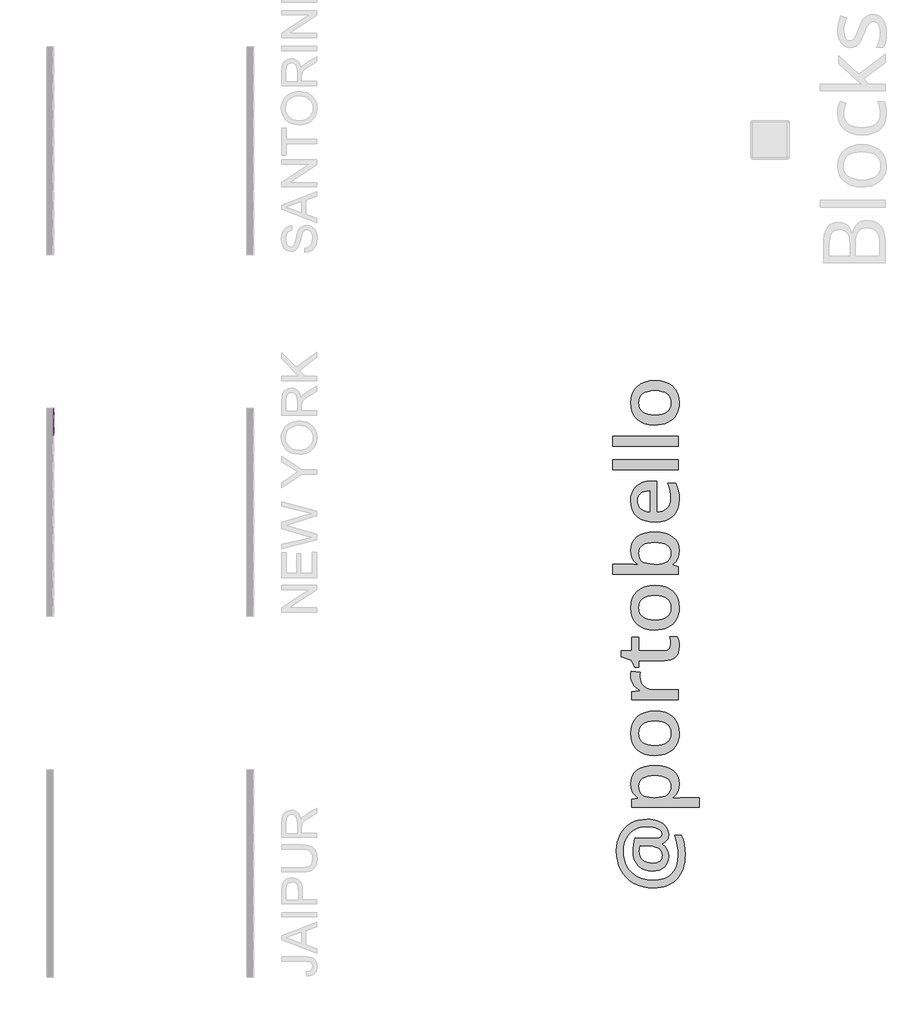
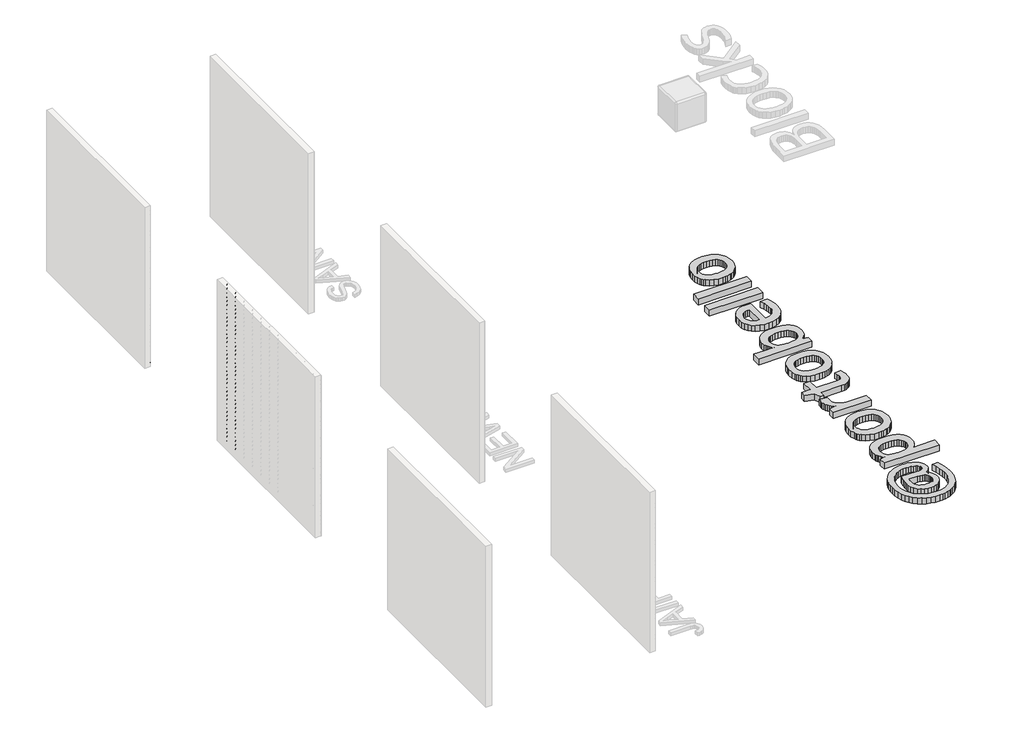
# One storey, part 24 of 45: 82 proxies.
"""IFC4 building model written with IfcOpenShell, lengths in millimetres."""

from ifc_helpers import new_model, si_unit, origin, origin_with_axes, place, context, project, spatial, polyline, outline, extrude, transform, mapped, element, save
from components import generic_models_acd2f2bb, generic_models_ab0f2c30, generic_models_bd1edc01

model = new_model("IFC4")

# Units and contexts
model_context = context("Model", 3, world=origin())
ifc_project = project(units=[si_unit("LENGTHUNIT", "METRE", prefix="MILLI")], contexts=[model_context])

# Site, building, storey
site = spatial("IfcSite", under=ifc_project)
building = spatial("IfcBuilding", under=site)
storey = spatial("IfcBuildingStorey", under=building, Name="PORTOBELLO - SHOWROOM", Elevation=0.0)

# Proxies
placement = place(None, origin())
generic_models_shape = generic_models_acd2f2bb(model_context)
element("IfcBuildingElementProxy", 1, Name="PBSHOP - HORIZONTES NEW YORK 6,5X23 : NEW YORK DECO", ObjectType="PBSHOP - HORIZONTES NEW YORK 6,5X23 : NEW YORK DECO", at=placement, inside=storey, context=model_context, shape_type="MappedRepresentation", body=[
    mapped(generic_models_shape, transform((66511.8826867, 8138.0036359, 34.5), x_axis=(0.0, 0.0, 1.0), y_axis=(0.0, -1.0, 0.0), z_axis=(1.0, 0.0, 0.0))),
])
element("IfcBuildingElementProxy", 2, Name="PBSHOP - HORIZONTES NEW YORK 6,5X23 : NEW YORK DECO", ObjectType="PBSHOP - HORIZONTES NEW YORK 6,5X23 : NEW YORK DECO", at=placement, inside=storey, context=model_context, shape_type="MappedRepresentation", body=[
    mapped(generic_models_shape, transform((66511.8826867, 8138.0036359, 103.5), x_axis=(0.0, 0.0, 1.0), y_axis=(0.0, -1.0, 0.0), z_axis=(1.0, 0.0, 0.0))),
])
element("IfcBuildingElementProxy", 3, Name="PBSHOP - HORIZONTES NEW YORK 6,5X23 : NEW YORK DECO", ObjectType="PBSHOP - HORIZONTES NEW YORK 6,5X23 : NEW YORK DECO", at=placement, inside=storey, context=model_context, shape_type="MappedRepresentation", body=[
    mapped(generic_models_shape, transform((66511.8826867, 8138.0036359, 172.5), x_axis=(0.0, 0.0, 1.0), y_axis=(0.0, -1.0, 0.0), z_axis=(1.0, 0.0, 0.0))),
])
element("IfcBuildingElementProxy", 4, Name="PBSHOP - HORIZONTES NEW YORK 6,5X23 : NEW YORK DECO", ObjectType="PBSHOP - HORIZONTES NEW YORK 6,5X23 : NEW YORK DECO", at=placement, inside=storey, context=model_context, shape_type="MappedRepresentation", body=[
    mapped(generic_models_shape, transform((66511.8826867, 8138.0036359, 241.5), x_axis=(0.0, 0.0, 1.0), y_axis=(0.0, -1.0, 0.0), z_axis=(1.0, 0.0, 0.0))),
])
element("IfcBuildingElementProxy", 5, Name="PBSHOP - HORIZONTES NEW YORK 6,5X23 : NEW YORK DECO", ObjectType="PBSHOP - HORIZONTES NEW YORK 6,5X23 : NEW YORK DECO", at=placement, inside=storey, context=model_context, shape_type="MappedRepresentation", body=[
    mapped(generic_models_shape, transform((66511.8826867, 8138.0036359, 310.5), x_axis=(0.0, 0.0, 1.0), y_axis=(0.0, -1.0, 0.0), z_axis=(1.0, 0.0, 0.0))),
])
element("IfcBuildingElementProxy", 6, Name="PBSHOP - HORIZONTES NEW YORK 6,5X23 : NEW YORK DECO", ObjectType="PBSHOP - HORIZONTES NEW YORK 6,5X23 : NEW YORK DECO", at=placement, inside=storey, context=model_context, shape_type="MappedRepresentation", body=[
    mapped(generic_models_shape, transform((66511.8826867, 8138.0036359, 379.5), x_axis=(0.0, 0.0, 1.0), y_axis=(0.0, -1.0, 0.0), z_axis=(1.0, 0.0, 0.0))),
])
element("IfcBuildingElementProxy", 7, Name="PBSHOP - HORIZONTES NEW YORK 6,5X23 : NEW YORK DECO", ObjectType="PBSHOP - HORIZONTES NEW YORK 6,5X23 : NEW YORK DECO", at=placement, inside=storey, context=model_context, shape_type="MappedRepresentation", body=[
    mapped(generic_models_shape, transform((66511.8826867, 8138.0036359, 448.5), x_axis=(0.0, 0.0, 1.0), y_axis=(0.0, -1.0, 0.0), z_axis=(1.0, 0.0, 0.0))),
])
element("IfcBuildingElementProxy", 8, Name="PBSHOP - HORIZONTES NEW YORK 6,5X23 : NEW YORK DECO", ObjectType="PBSHOP - HORIZONTES NEW YORK 6,5X23 : NEW YORK DECO", at=placement, inside=storey, context=model_context, shape_type="MappedRepresentation", body=[
    mapped(generic_models_shape, transform((66511.8826867, 8138.0036359, 517.5), x_axis=(0.0, 0.0, 1.0), y_axis=(0.0, -1.0, 0.0), z_axis=(1.0, 0.0, 0.0))),
])
element("IfcBuildingElementProxy", 9, Name="PBSHOP - HORIZONTES NEW YORK 6,5X23 : NEW YORK DECO", ObjectType="PBSHOP - HORIZONTES NEW YORK 6,5X23 : NEW YORK DECO", at=placement, inside=storey, context=model_context, shape_type="MappedRepresentation", body=[
    mapped(generic_models_shape, transform((66511.8826867, 8138.0036359, 586.5), x_axis=(0.0, 0.0, 1.0), y_axis=(0.0, -1.0, 0.0), z_axis=(1.0, 0.0, 0.0))),
])
element("IfcBuildingElementProxy", 10, Name="PBSHOP - HORIZONTES NEW YORK 6,5X23 : NEW YORK DECO", ObjectType="PBSHOP - HORIZONTES NEW YORK 6,5X23 : NEW YORK DECO", at=placement, inside=storey, context=model_context, shape_type="MappedRepresentation", body=[
    mapped(generic_models_shape, transform((66511.8826867, 8138.0036359, 655.5), x_axis=(0.0, 0.0, 1.0), y_axis=(0.0, -1.0, 0.0), z_axis=(1.0, 0.0, 0.0))),
])
element("IfcBuildingElementProxy", 11, Name="PBSHOP - HORIZONTES NEW YORK 6,5X23 : NEW YORK DECO", ObjectType="PBSHOP - HORIZONTES NEW YORK 6,5X23 : NEW YORK DECO", at=placement, inside=storey, context=model_context, shape_type="MappedRepresentation", body=[
    mapped(generic_models_shape, transform((66511.8826867, 8138.0036359, 724.5), x_axis=(0.0, 0.0, 1.0), y_axis=(0.0, -1.0, 0.0), z_axis=(1.0, 0.0, 0.0))),
])
element("IfcBuildingElementProxy", 12, Name="PBSHOP - HORIZONTES NEW YORK 6,5X23 : NEW YORK DECO", ObjectType="PBSHOP - HORIZONTES NEW YORK 6,5X23 : NEW YORK DECO", at=placement, inside=storey, context=model_context, shape_type="MappedRepresentation", body=[
    mapped(generic_models_shape, transform((66511.8826867, 8138.0036359, 793.5), x_axis=(0.0, 0.0, 1.0), y_axis=(0.0, -1.0, 0.0), z_axis=(1.0, 0.0, 0.0))),
])
element("IfcBuildingElementProxy", 13, Name="PBSHOP - HORIZONTES NEW YORK 6,5X23 : NEW YORK DECO", ObjectType="PBSHOP - HORIZONTES NEW YORK 6,5X23 : NEW YORK DECO", at=placement, inside=storey, context=model_context, shape_type="MappedRepresentation", body=[
    mapped(generic_models_shape, transform((66511.8826867, 8138.0036359, 862.5), x_axis=(0.0, 0.0, 1.0), y_axis=(0.0, -1.0, 0.0), z_axis=(1.0, 0.0, 0.0))),
])
element("IfcBuildingElementProxy", 14, Name="PBSHOP - HORIZONTES NEW YORK 6,5X23 : NEW YORK DECO", ObjectType="PBSHOP - HORIZONTES NEW YORK 6,5X23 : NEW YORK DECO", at=placement, inside=storey, context=model_context, shape_type="MappedRepresentation", body=[
    mapped(generic_models_shape, transform((66511.8826867, 8138.0036359, 931.5), x_axis=(0.0, 0.0, 1.0), y_axis=(0.0, -1.0, 0.0), z_axis=(1.0, 0.0, 0.0))),
])
element("IfcBuildingElementProxy", 15, Name="PBSHOP - HORIZONTES NEW YORK 6,5X23 : NEW YORK DECO", ObjectType="PBSHOP - HORIZONTES NEW YORK 6,5X23 : NEW YORK DECO", at=placement, inside=storey, context=model_context, shape_type="MappedRepresentation", body=[
    mapped(generic_models_shape, transform((66511.8826867, 8138.0036359, 1000.5), x_axis=(0.0, 0.0, 1.0), y_axis=(0.0, -1.0, 0.0), z_axis=(1.0, 0.0, 0.0))),
])
element("IfcBuildingElementProxy", 16, Name="PBSHOP - HORIZONTES NEW YORK 6,5X23 : NEW YORK DECO", ObjectType="PBSHOP - HORIZONTES NEW YORK 6,5X23 : NEW YORK DECO", at=placement, inside=storey, context=model_context, shape_type="MappedRepresentation", body=[
    mapped(generic_models_shape, transform((66511.8826867, 8138.0036359, 1069.5), x_axis=(0.0, 0.0, 1.0), y_axis=(0.0, -1.0, 0.0), z_axis=(1.0, 0.0, 0.0))),
])
element("IfcBuildingElementProxy", 17, Name="PBSHOP - HORIZONTES NEW YORK 6,5X23 : NEW YORK DECO", ObjectType="PBSHOP - HORIZONTES NEW YORK 6,5X23 : NEW YORK DECO", at=placement, inside=storey, context=model_context, shape_type="MappedRepresentation", body=[
    mapped(generic_models_shape, transform((66511.8826867, 8138.0036359, 1138.5), x_axis=(0.0, 0.0, 1.0), y_axis=(0.0, -1.0, 0.0), z_axis=(1.0, 0.0, 0.0))),
])
element("IfcBuildingElementProxy", 18, Name="PBSHOP - HORIZONTES NEW YORK 6,5X23 : NEW YORK DECO", ObjectType="PBSHOP - HORIZONTES NEW YORK 6,5X23 : NEW YORK DECO", at=placement, inside=storey, context=model_context, shape_type="MappedRepresentation", body=[
    mapped(generic_models_shape, transform((66511.8826867, 8138.0036359, 1207.5), x_axis=(0.0, 0.0, 1.0), y_axis=(0.0, -1.0, 0.0), z_axis=(1.0, 0.0, 0.0))),
])
element("IfcBuildingElementProxy", 19, Name="PBSHOP - HORIZONTES NEW YORK 6,5X23 : NEW YORK DECO", ObjectType="PBSHOP - HORIZONTES NEW YORK 6,5X23 : NEW YORK DECO", at=placement, inside=storey, context=model_context, shape_type="MappedRepresentation", body=[
    mapped(generic_models_shape, transform((66511.8826867, 8138.0036359, 1276.5), x_axis=(0.0, 0.0, 1.0), y_axis=(0.0, -1.0, 0.0), z_axis=(1.0, 0.0, 0.0))),
])
element("IfcBuildingElementProxy", 20, Name="PBSHOP - HORIZONTES NEW YORK 6,5X23 : NEW YORK DECO", ObjectType="PBSHOP - HORIZONTES NEW YORK 6,5X23 : NEW YORK DECO", at=placement, inside=storey, context=model_context, shape_type="MappedRepresentation", body=[
    mapped(generic_models_shape, transform((66511.8826867, 8138.0036359, 1345.5), x_axis=(0.0, 0.0, 1.0), y_axis=(0.0, -1.0, 0.0), z_axis=(1.0, 0.0, 0.0))),
])
element("IfcBuildingElementProxy", 21, Name="PBSHOP - HORIZONTES NEW YORK 6,5X23 : NEW YORK DECO", ObjectType="PBSHOP - HORIZONTES NEW YORK 6,5X23 : NEW YORK DECO", at=placement, inside=storey, context=model_context, shape_type="MappedRepresentation", body=[
    mapped(generic_models_shape, transform((66511.8826867, 8138.0036359, 1414.5), x_axis=(0.0, 0.0, 1.0), y_axis=(0.0, -1.0, 0.0), z_axis=(1.0, 0.0, 0.0))),
])
element("IfcBuildingElementProxy", 22, Name="PBSHOP - HORIZONTES NEW YORK 6,5X23 : NEW YORK DECO", ObjectType="PBSHOP - HORIZONTES NEW YORK 6,5X23 : NEW YORK DECO", at=placement, inside=storey, context=model_context, shape_type="MappedRepresentation", body=[
    mapped(generic_models_shape, transform((66511.8826867, 8138.0036359, 1483.5), x_axis=(0.0, 0.0, 1.0), y_axis=(0.0, -1.0, 0.0), z_axis=(1.0, 0.0, 0.0))),
])
element("IfcBuildingElementProxy", 23, Name="PBSHOP - HORIZONTES NEW YORK 6,5X23 : NEW YORK DECO", ObjectType="PBSHOP - HORIZONTES NEW YORK 6,5X23 : NEW YORK DECO", at=placement, inside=storey, context=model_context, shape_type="MappedRepresentation", body=[
    mapped(generic_models_shape, transform((66511.8826867, 8138.0036359, 1552.5), x_axis=(0.0, 0.0, 1.0), y_axis=(0.0, -1.0, 0.0), z_axis=(1.0, 0.0, 0.0))),
])
element("IfcBuildingElementProxy", 24, Name="PBSHOP - HORIZONTES NEW YORK 6,5X23 : NEW YORK DECO", ObjectType="PBSHOP - HORIZONTES NEW YORK 6,5X23 : NEW YORK DECO", at=placement, inside=storey, context=model_context, shape_type="MappedRepresentation", body=[
    mapped(generic_models_shape, transform((66511.8826867, 8138.0036359, 1621.5), x_axis=(0.0, 0.0, 1.0), y_axis=(0.0, -1.0, 0.0), z_axis=(1.0, 0.0, 0.0))),
])
element("IfcBuildingElementProxy", 25, Name="PBSHOP - HORIZONTES NEW YORK 6,5X23 : NEW YORK DECO", ObjectType="PBSHOP - HORIZONTES NEW YORK 6,5X23 : NEW YORK DECO", at=placement, inside=storey, context=model_context, shape_type="MappedRepresentation", body=[
    mapped(generic_models_shape, transform((66511.8826867, 8138.0036359, 1690.5), x_axis=(0.0, 0.0, 1.0), y_axis=(0.0, -1.0, 0.0), z_axis=(1.0, 0.0, 0.0))),
])
element("IfcBuildingElementProxy", 26, Name="PBSHOP - HORIZONTES NEW YORK 6,5X23 : NEW YORK DECO", ObjectType="PBSHOP - HORIZONTES NEW YORK 6,5X23 : NEW YORK DECO", at=placement, inside=storey, context=model_context, shape_type="MappedRepresentation", body=[
    mapped(generic_models_shape, transform((66511.8826867, 8138.0036359, 1759.5), x_axis=(0.0, 0.0, 1.0), y_axis=(0.0, -1.0, 0.0), z_axis=(1.0, 0.0, 0.0))),
])
element("IfcBuildingElementProxy", 27, Name="PBSHOP - HORIZONTES NEW YORK 6,5X23 : NEW YORK DECO", ObjectType="PBSHOP - HORIZONTES NEW YORK 6,5X23 : NEW YORK DECO", at=placement, inside=storey, context=model_context, shape_type="MappedRepresentation", body=[
    mapped(generic_models_shape, transform((66511.8826867, 8138.0036359, 1828.5), x_axis=(0.0, 0.0, 1.0), y_axis=(0.0, -1.0, 0.0), z_axis=(1.0, 0.0, 0.0))),
])
element("IfcBuildingElementProxy", 28, Name="PBSHOP - HORIZONTES NEW YORK 6,5X23 : NEW YORK DECO", ObjectType="PBSHOP - HORIZONTES NEW YORK 6,5X23 : NEW YORK DECO", at=placement, inside=storey, context=model_context, shape_type="MappedRepresentation", body=[
    mapped(generic_models_shape, transform((66511.8826867, 8138.0036359, 1897.5), x_axis=(0.0, 0.0, 1.0), y_axis=(0.0, -1.0, 0.0), z_axis=(1.0, 0.0, 0.0))),
])
element("IfcBuildingElementProxy", 29, Name="PBSHOP - HORIZONTES NEW YORK 6,5X23 : NEW YORK DECO", ObjectType="PBSHOP - HORIZONTES NEW YORK 6,5X23 : NEW YORK DECO", at=placement, inside=storey, context=model_context, shape_type="MappedRepresentation", body=[
    mapped(generic_models_shape, transform((66511.8826867, 8138.0036359, 1966.5), x_axis=(0.0, 0.0, 1.0), y_axis=(0.0, -1.0, 0.0), z_axis=(1.0, 0.0, 0.0))),
])
element("IfcBuildingElementProxy", 30, Name="PBSHOP - HORIZONTES NEW YORK 6,5X23 : NEW YORK DECO", ObjectType="PBSHOP - HORIZONTES NEW YORK 6,5X23 : NEW YORK DECO", at=placement, inside=storey, context=model_context, shape_type="MappedRepresentation", body=[
    mapped(generic_models_shape, transform((66511.8826867, 8138.0036359, 2035.5), x_axis=(0.0, 0.0, 1.0), y_axis=(0.0, -1.0, 0.0), z_axis=(1.0, 0.0, 0.0))),
])
element("IfcBuildingElementProxy", 31, Name="PBSHOP - HORIZONTES NEW YORK 6,5X23 : NEW YORK DECO", ObjectType="PBSHOP - HORIZONTES NEW YORK 6,5X23 : NEW YORK DECO", at=placement, inside=storey, context=model_context, shape_type="MappedRepresentation", body=[
    mapped(generic_models_shape, transform((66511.8826867, 8138.0036359, 2104.5), x_axis=(0.0, 0.0, 1.0), y_axis=(0.0, -1.0, 0.0), z_axis=(1.0, 0.0, 0.0))),
])
element("IfcBuildingElementProxy", 32, Name="PBSHOP - HORIZONTES NEW YORK 6,5X23 : NEW YORK DECO", ObjectType="PBSHOP - HORIZONTES NEW YORK 6,5X23 : NEW YORK DECO", at=placement, inside=storey, context=model_context, shape_type="MappedRepresentation", body=[
    mapped(generic_models_shape, transform((66511.8826867, 8138.0036359, 2173.5), x_axis=(0.0, 0.0, 1.0), y_axis=(0.0, -1.0, 0.0), z_axis=(1.0, 0.0, 0.0))),
])
element("IfcBuildingElementProxy", 33, Name="PBSHOP - HORIZONTES NEW YORK 6,5X23 : NEW YORK DECO", ObjectType="PBSHOP - HORIZONTES NEW YORK 6,5X23 : NEW YORK DECO", at=placement, inside=storey, context=model_context, shape_type="MappedRepresentation", body=[
    mapped(generic_models_shape, transform((66511.8826867, 8138.0036359, 2242.5), x_axis=(0.0, 0.0, 1.0), y_axis=(0.0, -1.0, 0.0), z_axis=(1.0, 0.0, 0.0))),
])
element("IfcBuildingElementProxy", 34, Name="PBSHOP - HORIZONTES NEW YORK 6,5X23 : NEW YORK DECO", ObjectType="PBSHOP - HORIZONTES NEW YORK 6,5X23 : NEW YORK DECO", at=placement, inside=storey, context=model_context, shape_type="MappedRepresentation", body=[
    mapped(generic_models_shape, transform((66511.8826867, 8138.0036359, 2311.5), x_axis=(0.0, 0.0, 1.0), y_axis=(0.0, -1.0, 0.0), z_axis=(1.0, 0.0, 0.0))),
])
element("IfcBuildingElementProxy", 35, Name="PBSHOP - HORIZONTES NEW YORK 6,5X23 : NEW YORK DECO", ObjectType="PBSHOP - HORIZONTES NEW YORK 6,5X23 : NEW YORK DECO", at=placement, inside=storey, context=model_context, shape_type="MappedRepresentation", body=[
    mapped(generic_models_shape, transform((66511.8826867, 8138.0036359, 2380.5), x_axis=(0.0, 0.0, 1.0), y_axis=(0.0, -1.0, 0.0), z_axis=(1.0, 0.0, 0.0))),
])
element("IfcBuildingElementProxy", 36, Name="PBSHOP - HORIZONTES NEW YORK 6,5X23 : NEW YORK DECO", ObjectType="PBSHOP - HORIZONTES NEW YORK 6,5X23 : NEW YORK DECO", at=placement, inside=storey, context=model_context, shape_type="MappedRepresentation", body=[
    mapped(generic_models_shape, transform((66511.8826867, 8138.0036359, 2449.5), x_axis=(0.0, 0.0, 1.0), y_axis=(0.0, -1.0, 0.0), z_axis=(1.0, 0.0, 0.0))),
])
element("IfcBuildingElementProxy", 37, Name="PBSHOP - HORIZONTES NEW YORK 6,5X23 : NEW YORK DECO", ObjectType="PBSHOP - HORIZONTES NEW YORK 6,5X23 : NEW YORK DECO", at=placement, inside=storey, context=model_context, shape_type="MappedRepresentation", body=[
    mapped(generic_models_shape, transform((66511.8826867, 8138.0036359, 2518.5), x_axis=(0.0, 0.0, 1.0), y_axis=(0.0, -1.0, 0.0), z_axis=(1.0, 0.0, 0.0))),
])
element("IfcBuildingElementProxy", 38, Name="PBSHOP - HORIZONTES NEW YORK 6,5X23 : NEW YORK DECO", ObjectType="PBSHOP - HORIZONTES NEW YORK 6,5X23 : NEW YORK DECO", at=placement, inside=storey, context=model_context, shape_type="MappedRepresentation", body=[
    mapped(generic_models_shape, transform((66511.8826867, 8138.0036359, 2587.5), x_axis=(0.0, 0.0, 1.0), y_axis=(0.0, -1.0, 0.0), z_axis=(1.0, 0.0, 0.0))),
])
element("IfcBuildingElementProxy", 39, Name="PBSHOP - HORIZONTES NEW YORK 6,5X23 : NEW YORK DECO", ObjectType="PBSHOP - HORIZONTES NEW YORK 6,5X23 : NEW YORK DECO", at=placement, inside=storey, context=model_context, shape_type="MappedRepresentation", body=[
    mapped(generic_models_shape, transform((66511.8826867, 8138.0036359, 2656.5), x_axis=(0.0, 0.0, 1.0), y_axis=(0.0, -1.0, 0.0), z_axis=(1.0, 0.0, 0.0))),
])
generic_models_2_shape = generic_models_ab0f2c30(model_context)
element("IfcBuildingElementProxy", 40, Name="PBSHOP - HORIZONTES SANTORINI 6,5X23 : SANTORINI ROTAS", ObjectType="PBSHOP - HORIZONTES SANTORINI 6,5X23 : SANTORINI ROTAS", at=placement, inside=storey, context=model_context, shape_type="MappedRepresentation", body=[
    mapped(generic_models_2_shape, transform((66511.8826867, 10492.0312463, 34.5), x_axis=(0.0, 0.0, 1.0), y_axis=(0.0, -1.0, 0.0), z_axis=(1.0, 0.0, 0.0))),
])
element("IfcBuildingElementProxy", 41, Name="PBSHOP - HORIZONTES SANTORINI 6,5X23 : SANTORINI ROTAS", ObjectType="PBSHOP - HORIZONTES SANTORINI 6,5X23 : SANTORINI ROTAS", at=placement, inside=storey, context=model_context, shape_type="MappedRepresentation", body=[
    mapped(generic_models_2_shape, transform((66511.8826867, 10726.0312463, 34.5), x_axis=(0.0, 0.0, 1.0), y_axis=(0.0, -1.0, 0.0), z_axis=(1.0, 0.0, 0.0))),
])
element("IfcBuildingElementProxy", 42, Name="PBSHOP - HORIZONTES SANTORINI 6,5X23 : SANTORINI ROTAS", ObjectType="PBSHOP - HORIZONTES SANTORINI 6,5X23 : SANTORINI ROTAS", at=placement, inside=storey, context=model_context, shape_type="MappedRepresentation", body=[
    mapped(generic_models_2_shape, transform((66511.8826867, 10960.0312463, 34.5), x_axis=(0.0, 0.0, 1.0), y_axis=(0.0, -1.0, 0.0), z_axis=(1.0, 0.0, 0.0))),
])
generic_models_3_shape = generic_models_bd1edc01(model_context)
element("IfcBuildingElementProxy", 43, Name="PBSHOP - HORIZONTES NEW YORK 6,5X23 : NEW YORK DECO", ObjectType="PBSHOP - HORIZONTES NEW YORK 6,5X23 : NEW YORK DECO", at=placement, inside=storey, context=model_context, shape_type="MappedRepresentation", body=[
    mapped(generic_models_3_shape, transform((66511.8826867, 8372.0036359, 34.5), x_axis=(0.0, 0.0, 1.0), y_axis=(0.0, -1.0, 0.0), z_axis=(1.0, 0.0, 0.0))),
])
element("IfcBuildingElementProxy", 44, Name="PBSHOP - HORIZONTES NEW YORK 6,5X23 : NEW YORK DECO", ObjectType="PBSHOP - HORIZONTES NEW YORK 6,5X23 : NEW YORK DECO", at=placement, inside=storey, context=model_context, shape_type="MappedRepresentation", body=[
    mapped(generic_models_3_shape, transform((66511.8826867, 8372.0036359, 103.5), x_axis=(0.0, 0.0, 1.0), y_axis=(0.0, -1.0, 0.0), z_axis=(1.0, 0.0, 0.0))),
])
element("IfcBuildingElementProxy", 45, Name="PBSHOP - HORIZONTES NEW YORK 6,5X23 : NEW YORK DECO", ObjectType="PBSHOP - HORIZONTES NEW YORK 6,5X23 : NEW YORK DECO", at=placement, inside=storey, context=model_context, shape_type="MappedRepresentation", body=[
    mapped(generic_models_3_shape, transform((66511.8826867, 8372.0036359, 172.5), x_axis=(0.0, 0.0, 1.0), y_axis=(0.0, -1.0, 0.0), z_axis=(1.0, 0.0, 0.0))),
])
element("IfcBuildingElementProxy", 46, Name="PBSHOP - HORIZONTES NEW YORK 6,5X23 : NEW YORK DECO", ObjectType="PBSHOP - HORIZONTES NEW YORK 6,5X23 : NEW YORK DECO", at=placement, inside=storey, context=model_context, shape_type="MappedRepresentation", body=[
    mapped(generic_models_3_shape, transform((66511.8826867, 8372.0036359, 241.5), x_axis=(0.0, 0.0, 1.0), y_axis=(0.0, -1.0, 0.0), z_axis=(1.0, 0.0, 0.0))),
])
element("IfcBuildingElementProxy", 47, Name="PBSHOP - HORIZONTES NEW YORK 6,5X23 : NEW YORK DECO", ObjectType="PBSHOP - HORIZONTES NEW YORK 6,5X23 : NEW YORK DECO", at=placement, inside=storey, context=model_context, shape_type="MappedRepresentation", body=[
    mapped(generic_models_3_shape, transform((66511.8826867, 8372.0036359, 310.5), x_axis=(0.0, 0.0, 1.0), y_axis=(0.0, -1.0, 0.0), z_axis=(1.0, 0.0, 0.0))),
])
element("IfcBuildingElementProxy", 48, Name="PBSHOP - HORIZONTES NEW YORK 6,5X23 : NEW YORK DECO", ObjectType="PBSHOP - HORIZONTES NEW YORK 6,5X23 : NEW YORK DECO", at=placement, inside=storey, context=model_context, shape_type="MappedRepresentation", body=[
    mapped(generic_models_3_shape, transform((66511.8826867, 8372.0036359, 379.5), x_axis=(0.0, 0.0, 1.0), y_axis=(0.0, -1.0, 0.0), z_axis=(1.0, 0.0, 0.0))),
])
element("IfcBuildingElementProxy", 49, Name="PBSHOP - HORIZONTES NEW YORK 6,5X23 : NEW YORK DECO", ObjectType="PBSHOP - HORIZONTES NEW YORK 6,5X23 : NEW YORK DECO", at=placement, inside=storey, context=model_context, shape_type="MappedRepresentation", body=[
    mapped(generic_models_3_shape, transform((66511.8826867, 8372.0036359, 448.5), x_axis=(0.0, 0.0, 1.0), y_axis=(0.0, -1.0, 0.0), z_axis=(1.0, 0.0, 0.0))),
])
element("IfcBuildingElementProxy", 50, Name="PBSHOP - HORIZONTES NEW YORK 6,5X23 : NEW YORK DECO", ObjectType="PBSHOP - HORIZONTES NEW YORK 6,5X23 : NEW YORK DECO", at=placement, inside=storey, context=model_context, shape_type="MappedRepresentation", body=[
    mapped(generic_models_3_shape, transform((66511.8826867, 8372.0036359, 517.5), x_axis=(0.0, 0.0, 1.0), y_axis=(0.0, -1.0, 0.0), z_axis=(1.0, 0.0, 0.0))),
])
element("IfcBuildingElementProxy", 51, Name="PBSHOP - HORIZONTES NEW YORK 6,5X23 : NEW YORK DECO", ObjectType="PBSHOP - HORIZONTES NEW YORK 6,5X23 : NEW YORK DECO", at=placement, inside=storey, context=model_context, shape_type="MappedRepresentation", body=[
    mapped(generic_models_3_shape, transform((66511.8826867, 8372.0036359, 586.5), x_axis=(0.0, 0.0, 1.0), y_axis=(0.0, -1.0, 0.0), z_axis=(1.0, 0.0, 0.0))),
])
element("IfcBuildingElementProxy", 52, Name="PBSHOP - HORIZONTES NEW YORK 6,5X23 : NEW YORK DECO", ObjectType="PBSHOP - HORIZONTES NEW YORK 6,5X23 : NEW YORK DECO", at=placement, inside=storey, context=model_context, shape_type="MappedRepresentation", body=[
    mapped(generic_models_3_shape, transform((66511.8826867, 8372.0036359, 655.5), x_axis=(0.0, 0.0, 1.0), y_axis=(0.0, -1.0, 0.0), z_axis=(1.0, 0.0, 0.0))),
])
element("IfcBuildingElementProxy", 53, Name="PBSHOP - HORIZONTES NEW YORK 6,5X23 : NEW YORK DECO", ObjectType="PBSHOP - HORIZONTES NEW YORK 6,5X23 : NEW YORK DECO", at=placement, inside=storey, context=model_context, shape_type="MappedRepresentation", body=[
    mapped(generic_models_3_shape, transform((66511.8826867, 8372.0036359, 724.5), x_axis=(0.0, 0.0, 1.0), y_axis=(0.0, -1.0, 0.0), z_axis=(1.0, 0.0, 0.0))),
])
element("IfcBuildingElementProxy", 54, Name="PBSHOP - HORIZONTES NEW YORK 6,5X23 : NEW YORK DECO", ObjectType="PBSHOP - HORIZONTES NEW YORK 6,5X23 : NEW YORK DECO", at=placement, inside=storey, context=model_context, shape_type="MappedRepresentation", body=[
    mapped(generic_models_3_shape, transform((66511.8826867, 8372.0036359, 793.5), x_axis=(0.0, 0.0, 1.0), y_axis=(0.0, -1.0, 0.0), z_axis=(1.0, 0.0, 0.0))),
])
element("IfcBuildingElementProxy", 55, Name="PBSHOP - HORIZONTES NEW YORK 6,5X23 : NEW YORK DECO", ObjectType="PBSHOP - HORIZONTES NEW YORK 6,5X23 : NEW YORK DECO", at=placement, inside=storey, context=model_context, shape_type="MappedRepresentation", body=[
    mapped(generic_models_3_shape, transform((66511.8826867, 8372.0036359, 862.5), x_axis=(0.0, 0.0, 1.0), y_axis=(0.0, -1.0, 0.0), z_axis=(1.0, 0.0, 0.0))),
])
element("IfcBuildingElementProxy", 56, Name="PBSHOP - HORIZONTES NEW YORK 6,5X23 : NEW YORK DECO", ObjectType="PBSHOP - HORIZONTES NEW YORK 6,5X23 : NEW YORK DECO", at=placement, inside=storey, context=model_context, shape_type="MappedRepresentation", body=[
    mapped(generic_models_3_shape, transform((66511.8826867, 8372.0036359, 931.5), x_axis=(0.0, 0.0, 1.0), y_axis=(0.0, -1.0, 0.0), z_axis=(1.0, 0.0, 0.0))),
])
element("IfcBuildingElementProxy", 57, Name="PBSHOP - HORIZONTES NEW YORK 6,5X23 : NEW YORK DECO", ObjectType="PBSHOP - HORIZONTES NEW YORK 6,5X23 : NEW YORK DECO", at=placement, inside=storey, context=model_context, shape_type="MappedRepresentation", body=[
    mapped(generic_models_3_shape, transform((66511.8826867, 8372.0036359, 1000.5), x_axis=(0.0, 0.0, 1.0), y_axis=(0.0, -1.0, 0.0), z_axis=(1.0, 0.0, 0.0))),
])
element("IfcBuildingElementProxy", 58, Name="PBSHOP - HORIZONTES NEW YORK 6,5X23 : NEW YORK DECO", ObjectType="PBSHOP - HORIZONTES NEW YORK 6,5X23 : NEW YORK DECO", at=placement, inside=storey, context=model_context, shape_type="MappedRepresentation", body=[
    mapped(generic_models_3_shape, transform((66511.8826867, 8372.0036359, 1069.5), x_axis=(0.0, 0.0, 1.0), y_axis=(0.0, -1.0, 0.0), z_axis=(1.0, 0.0, 0.0))),
])
element("IfcBuildingElementProxy", 59, Name="PBSHOP - HORIZONTES NEW YORK 6,5X23 : NEW YORK DECO", ObjectType="PBSHOP - HORIZONTES NEW YORK 6,5X23 : NEW YORK DECO", at=placement, inside=storey, context=model_context, shape_type="MappedRepresentation", body=[
    mapped(generic_models_3_shape, transform((66511.8826867, 8372.0036359, 1138.5), x_axis=(0.0, 0.0, 1.0), y_axis=(0.0, -1.0, 0.0), z_axis=(1.0, 0.0, 0.0))),
])
element("IfcBuildingElementProxy", 60, Name="PBSHOP - HORIZONTES NEW YORK 6,5X23 : NEW YORK DECO", ObjectType="PBSHOP - HORIZONTES NEW YORK 6,5X23 : NEW YORK DECO", at=placement, inside=storey, context=model_context, shape_type="MappedRepresentation", body=[
    mapped(generic_models_3_shape, transform((66511.8826867, 8372.0036359, 1207.5), x_axis=(0.0, 0.0, 1.0), y_axis=(0.0, -1.0, 0.0), z_axis=(1.0, 0.0, 0.0))),
])
element("IfcBuildingElementProxy", 61, Name="PBSHOP - HORIZONTES NEW YORK 6,5X23 : NEW YORK DECO", ObjectType="PBSHOP - HORIZONTES NEW YORK 6,5X23 : NEW YORK DECO", at=placement, inside=storey, context=model_context, shape_type="MappedRepresentation", body=[
    mapped(generic_models_3_shape, transform((66511.8826867, 8372.0036359, 1276.5), x_axis=(0.0, 0.0, 1.0), y_axis=(0.0, -1.0, 0.0), z_axis=(1.0, 0.0, 0.0))),
])
element("IfcBuildingElementProxy", 62, Name="PBSHOP - HORIZONTES NEW YORK 6,5X23 : NEW YORK DECO", ObjectType="PBSHOP - HORIZONTES NEW YORK 6,5X23 : NEW YORK DECO", at=placement, inside=storey, context=model_context, shape_type="MappedRepresentation", body=[
    mapped(generic_models_3_shape, transform((66511.8826867, 8372.0036359, 1345.5), x_axis=(0.0, 0.0, 1.0), y_axis=(0.0, -1.0, 0.0), z_axis=(1.0, 0.0, 0.0))),
])
element("IfcBuildingElementProxy", 63, Name="PBSHOP - HORIZONTES NEW YORK 6,5X23 : NEW YORK DECO", ObjectType="PBSHOP - HORIZONTES NEW YORK 6,5X23 : NEW YORK DECO", at=placement, inside=storey, context=model_context, shape_type="MappedRepresentation", body=[
    mapped(generic_models_3_shape, transform((66511.8826867, 8372.0036359, 1414.5), x_axis=(0.0, 0.0, 1.0), y_axis=(0.0, -1.0, 0.0), z_axis=(1.0, 0.0, 0.0))),
])
element("IfcBuildingElementProxy", 64, Name="PBSHOP - HORIZONTES NEW YORK 6,5X23 : NEW YORK DECO", ObjectType="PBSHOP - HORIZONTES NEW YORK 6,5X23 : NEW YORK DECO", at=placement, inside=storey, context=model_context, shape_type="MappedRepresentation", body=[
    mapped(generic_models_3_shape, transform((66511.8826867, 8372.0036359, 1483.5), x_axis=(0.0, 0.0, 1.0), y_axis=(0.0, -1.0, 0.0), z_axis=(1.0, 0.0, 0.0))),
])
element("IfcBuildingElementProxy", 65, Name="PBSHOP - HORIZONTES NEW YORK 6,5X23 : NEW YORK DECO", ObjectType="PBSHOP - HORIZONTES NEW YORK 6,5X23 : NEW YORK DECO", at=placement, inside=storey, context=model_context, shape_type="MappedRepresentation", body=[
    mapped(generic_models_3_shape, transform((66511.8826867, 8372.0036359, 1552.5), x_axis=(0.0, 0.0, 1.0), y_axis=(0.0, -1.0, 0.0), z_axis=(1.0, 0.0, 0.0))),
])
element("IfcBuildingElementProxy", 66, Name="PBSHOP - HORIZONTES NEW YORK 6,5X23 : NEW YORK DECO", ObjectType="PBSHOP - HORIZONTES NEW YORK 6,5X23 : NEW YORK DECO", at=placement, inside=storey, context=model_context, shape_type="MappedRepresentation", body=[
    mapped(generic_models_3_shape, transform((66511.8826867, 8372.0036359, 1621.5), x_axis=(0.0, 0.0, 1.0), y_axis=(0.0, -1.0, 0.0), z_axis=(1.0, 0.0, 0.0))),
])
element("IfcBuildingElementProxy", 67, Name="PBSHOP - HORIZONTES NEW YORK 6,5X23 : NEW YORK DECO", ObjectType="PBSHOP - HORIZONTES NEW YORK 6,5X23 : NEW YORK DECO", at=placement, inside=storey, context=model_context, shape_type="MappedRepresentation", body=[
    mapped(generic_models_3_shape, transform((66511.8826867, 8372.0036359, 1690.5), x_axis=(0.0, 0.0, 1.0), y_axis=(0.0, -1.0, 0.0), z_axis=(1.0, 0.0, 0.0))),
])
element("IfcBuildingElementProxy", 68, Name="PBSHOP - HORIZONTES NEW YORK 6,5X23 : NEW YORK DECO", ObjectType="PBSHOP - HORIZONTES NEW YORK 6,5X23 : NEW YORK DECO", at=placement, inside=storey, context=model_context, shape_type="MappedRepresentation", body=[
    mapped(generic_models_3_shape, transform((66511.8826867, 8372.0036359, 1759.5), x_axis=(0.0, 0.0, 1.0), y_axis=(0.0, -1.0, 0.0), z_axis=(1.0, 0.0, 0.0))),
])
element("IfcBuildingElementProxy", 69, Name="PBSHOP - HORIZONTES NEW YORK 6,5X23 : NEW YORK DECO", ObjectType="PBSHOP - HORIZONTES NEW YORK 6,5X23 : NEW YORK DECO", at=placement, inside=storey, context=model_context, shape_type="MappedRepresentation", body=[
    mapped(generic_models_3_shape, transform((66511.8826867, 8372.0036359, 1828.5), x_axis=(0.0, 0.0, 1.0), y_axis=(0.0, -1.0, 0.0), z_axis=(1.0, 0.0, 0.0))),
])
element("IfcBuildingElementProxy", 70, Name="PBSHOP - HORIZONTES NEW YORK 6,5X23 : NEW YORK DECO", ObjectType="PBSHOP - HORIZONTES NEW YORK 6,5X23 : NEW YORK DECO", at=placement, inside=storey, context=model_context, shape_type="MappedRepresentation", body=[
    mapped(generic_models_3_shape, transform((66511.8826867, 8372.0036359, 1897.5), x_axis=(0.0, 0.0, 1.0), y_axis=(0.0, -1.0, 0.0), z_axis=(1.0, 0.0, 0.0))),
])
element("IfcBuildingElementProxy", 71, Name="PBSHOP - HORIZONTES NEW YORK 6,5X23 : NEW YORK DECO", ObjectType="PBSHOP - HORIZONTES NEW YORK 6,5X23 : NEW YORK DECO", at=placement, inside=storey, context=model_context, shape_type="MappedRepresentation", body=[
    mapped(generic_models_3_shape, transform((66511.8826867, 8372.0036359, 1966.5), x_axis=(0.0, 0.0, 1.0), y_axis=(0.0, -1.0, 0.0), z_axis=(1.0, 0.0, 0.0))),
])
element("IfcBuildingElementProxy", 72, Name="PBSHOP - HORIZONTES NEW YORK 6,5X23 : NEW YORK DECO", ObjectType="PBSHOP - HORIZONTES NEW YORK 6,5X23 : NEW YORK DECO", at=placement, inside=storey, context=model_context, shape_type="MappedRepresentation", body=[
    mapped(generic_models_3_shape, transform((66511.8826867, 8372.0036359, 2035.5), x_axis=(0.0, 0.0, 1.0), y_axis=(0.0, -1.0, 0.0), z_axis=(1.0, 0.0, 0.0))),
])
element("IfcBuildingElementProxy", 73, Name="PBSHOP - HORIZONTES NEW YORK 6,5X23 : NEW YORK DECO", ObjectType="PBSHOP - HORIZONTES NEW YORK 6,5X23 : NEW YORK DECO", at=placement, inside=storey, context=model_context, shape_type="MappedRepresentation", body=[
    mapped(generic_models_3_shape, transform((66511.8826867, 8372.0036359, 2104.5), x_axis=(0.0, 0.0, 1.0), y_axis=(0.0, -1.0, 0.0), z_axis=(1.0, 0.0, 0.0))),
])
element("IfcBuildingElementProxy", 74, Name="PBSHOP - HORIZONTES NEW YORK 6,5X23 : NEW YORK DECO", ObjectType="PBSHOP - HORIZONTES NEW YORK 6,5X23 : NEW YORK DECO", at=placement, inside=storey, context=model_context, shape_type="MappedRepresentation", body=[
    mapped(generic_models_3_shape, transform((66511.8826867, 8372.0036359, 2173.5), x_axis=(0.0, 0.0, 1.0), y_axis=(0.0, -1.0, 0.0), z_axis=(1.0, 0.0, 0.0))),
])
element("IfcBuildingElementProxy", 75, Name="PBSHOP - HORIZONTES NEW YORK 6,5X23 : NEW YORK DECO", ObjectType="PBSHOP - HORIZONTES NEW YORK 6,5X23 : NEW YORK DECO", at=placement, inside=storey, context=model_context, shape_type="MappedRepresentation", body=[
    mapped(generic_models_3_shape, transform((66511.8826867, 8372.0036359, 2242.5), x_axis=(0.0, 0.0, 1.0), y_axis=(0.0, -1.0, 0.0), z_axis=(1.0, 0.0, 0.0))),
])
element("IfcBuildingElementProxy", 76, Name="PBSHOP - HORIZONTES NEW YORK 6,5X23 : NEW YORK DECO", ObjectType="PBSHOP - HORIZONTES NEW YORK 6,5X23 : NEW YORK DECO", at=placement, inside=storey, context=model_context, shape_type="MappedRepresentation", body=[
    mapped(generic_models_3_shape, transform((66511.8826867, 8372.0036359, 2311.5), x_axis=(0.0, 0.0, 1.0), y_axis=(0.0, -1.0, 0.0), z_axis=(1.0, 0.0, 0.0))),
])
element("IfcBuildingElementProxy", 77, Name="PBSHOP - HORIZONTES NEW YORK 6,5X23 : NEW YORK DECO", ObjectType="PBSHOP - HORIZONTES NEW YORK 6,5X23 : NEW YORK DECO", at=placement, inside=storey, context=model_context, shape_type="MappedRepresentation", body=[
    mapped(generic_models_3_shape, transform((66511.8826867, 8372.0036359, 2380.5), x_axis=(0.0, 0.0, 1.0), y_axis=(0.0, -1.0, 0.0), z_axis=(1.0, 0.0, 0.0))),
])
element("IfcBuildingElementProxy", 78, Name="PBSHOP - HORIZONTES NEW YORK 6,5X23 : NEW YORK DECO", ObjectType="PBSHOP - HORIZONTES NEW YORK 6,5X23 : NEW YORK DECO", at=placement, inside=storey, context=model_context, shape_type="MappedRepresentation", body=[
    mapped(generic_models_3_shape, transform((66511.8826867, 8372.0036359, 2449.5), x_axis=(0.0, 0.0, 1.0), y_axis=(0.0, -1.0, 0.0), z_axis=(1.0, 0.0, 0.0))),
])
element("IfcBuildingElementProxy", 79, Name="PBSHOP - HORIZONTES NEW YORK 6,5X23 : NEW YORK DECO", ObjectType="PBSHOP - HORIZONTES NEW YORK 6,5X23 : NEW YORK DECO", at=placement, inside=storey, context=model_context, shape_type="MappedRepresentation", body=[
    mapped(generic_models_3_shape, transform((66511.8826867, 8372.0036359, 2518.5), x_axis=(0.0, 0.0, 1.0), y_axis=(0.0, -1.0, 0.0), z_axis=(1.0, 0.0, 0.0))),
])
element("IfcBuildingElementProxy", 80, Name="PBSHOP - HORIZONTES NEW YORK 6,5X23 : NEW YORK DECO", ObjectType="PBSHOP - HORIZONTES NEW YORK 6,5X23 : NEW YORK DECO", at=placement, inside=storey, context=model_context, shape_type="MappedRepresentation", body=[
    mapped(generic_models_3_shape, transform((66511.8826867, 8372.0036359, 2587.5), x_axis=(0.0, 0.0, 1.0), y_axis=(0.0, -1.0, 0.0), z_axis=(1.0, 0.0, 0.0))),
])
element("IfcBuildingElementProxy", 81, Name="PBSHOP - HORIZONTES NEW YORK 6,5X23 : NEW YORK DECO", ObjectType="PBSHOP - HORIZONTES NEW YORK 6,5X23 : NEW YORK DECO", at=placement, inside=storey, context=model_context, shape_type="MappedRepresentation", body=[
    mapped(generic_models_3_shape, transform((66511.8826867, 8372.0036359, 2656.5), x_axis=(0.0, 0.0, 1.0), y_axis=(0.0, -1.0, 0.0), z_axis=(1.0, 0.0, 0.0))),
])
element("IfcBuildingElementProxy", 82, Name="80mm OpenSans Bold", ObjectType="80mm OpenSans Bold", at=placement, inside=storey, context=model_context, shape_type="SweptSolid", body=[
    extrude(outline(polyline([(74221.1680251, 3041.4958876), (74259.2736397, 3039.9485278), (74295.7117113, 3035.3064482), (74330.4822396, 3027.5696488), (74363.5852248, 3016.7381297), (74394.066712, 3003.0973262), (74420.9727462, 2986.9326736), (74444.3033276, 2968.2441718), (74464.058456, 2947.031821), (74479.7799328, 2923.6862167), (74491.009559, 2898.5979547), (74497.7473347, 2871.7670351), (74499.99326, 2843.1934576), (74494.2845537, 2802.5715053), (74487.1486708, 2784.4238284), (74477.1584347, 2767.7183509), (74464.734487, 2753.0409665), (74450.2974692, 2740.9775687), (74433.8473813, 2731.5281575), (74415.3842232, 2724.6927328), (74415.3842232, 2717.9624685), (74452.4006768, 2687.7964625), (74478.8410008, 2651.1405588), (74494.7051952, 2608.7759487), (74499.99326, 2561.4838237), (74496.4403415, 2518.8187555), (74485.7815858, 2480.9610188), (74468.0169932, 2447.9106138), (74443.1465634, 2419.6675405), (74412.2068774, 2397.0580588), (74376.2345162, 2380.9084291), (74335.2294796, 2371.2186513), (74289.1917677, 2367.9887254), (74236.0482188, 2372.2702551), (74188.1476659, 2385.1148443), (74145.4901091, 2406.522493), (74108.0755483, 2436.4932012), (74077.6316184, 2473.6749068), (74055.8859542, 2516.7155479), (74042.8385557, 2565.6151244), (74038.4894229, 2620.3736363), (74040.3222181, 2664.6912248), (74045.8206036, 2713.5156867), (74054.563938, 2761.7392322), (74066.1315798, 2804.2540714), (74317.3146578, 2791.9953757), (74330.0540866, 2791.9953757), (74367.9118233, 2795.6008744), (74394.9530637, 2806.4173706), (74404.4174979, 2814.5297428), (74411.177808, 2824.4448643), (74416.5860561, 2849.6833553), (74413.123275, 2870.4375074), (74402.7349318, 2888.9532457), (74385.4210265, 2905.2305701), (74361.181559, 2919.2694808), (74331.5789121, 2930.5742216), (74298.1754687, 2938.6490364), (74260.9712287, 2943.4939254), (74219.9661922, 2945.1088883), (74174.8749237, 2942.6901996), (74132.6229855, 2935.4341334), (74093.2103775, 2923.3406898), (74056.6370998, 2906.4098687), (74023.4965573, 2885.0172429), (73994.3821551, 2859.5383852), (73969.2938931, 2829.9732956), (73948.2317714, 2796.3219742), (73931.5638512, 2759.3205435), (73919.658194, 2719.7051262), (73912.5147996, 2677.4757224), (73910.1336682, 2632.632332), (73913.1232275, 2575.6579406), (73922.0919056, 2522.5143917), (73937.0397024, 2473.2016851), (73957.966618, 2427.7198209), (73984.4444992, 2386.7298073), (74016.0451933, 2350.8926522), (74052.7687001, 2320.2083558), (74094.6150197, 2294.6769179), (74140.8029607, 2274.5912854), (74190.5513317, 2260.2444051), (74243.8601327, 2251.6362768), (74300.7293637, 2248.7669008), (74374.9049885, 2254.1225687), (74439.991752, 2270.1895724), (74469.1268107, 2282.2398252), (74495.9896541, 2296.9679119), (74520.5802822, 2314.3738326), (74542.8986948, 2334.4575872), (74562.7571058, 2357.0426566), (74579.9677286, 2381.9525215), (74594.5305633, 2409.1871819), (74606.4456099, 2438.7466379), (74622.3323387, 2504.8399364), (74627.6279149, 2580.2324171), (74624.5331952, 2641.946537), (74615.249036, 2704.9826731), (74599.7754373, 2769.3408254), (74578.1123991, 2835.0209939), (74668.2498673, 2835.0209939), (74688.8613017, 2775.8006773), (74703.5837548, 2713.9964199), (74712.4172267, 2649.6082218), (74715.3617173, 2582.6360829), (74713.6660062, 2533.0210403), (74708.5788728, 2486.2115263), (74700.1003172, 2442.2075411), (74688.2303394, 2401.0090845), (74672.9689393, 2362.6161567), (74654.316117, 2327.0287575), (74632.2718724, 2294.2468871), (74606.8362056, 2264.2705453), (74578.3659107, 2237.4828165), (74547.2177819, 2214.2667848), (74513.3918191, 2194.6224503), (74476.8880223, 2178.5498131), (74437.7063916, 2166.0488729), (74395.846927, 2157.11963), (74351.3096284, 2151.7620842), (74304.0944958, 2149.9762356), (74235.0266608, 2153.8371239), (74169.8798057, 2165.4197885), (74108.6539304, 2184.7242296), (74051.349035, 2211.7504472), (73999.2495784, 2245.6271123), (73953.6400195, 2285.4828961), (73914.5203583, 2331.3177987), (73881.8905948, 2383.13182), (73856.178882, 2439.7531729), (73837.8133729, 2500.0100704), (73826.7940674, 2563.9025125), (73823.1209656, 2631.430499), (73826.1856395, 2689.651792), (73835.3796612, 2744.6131133), (73850.7030308, 2796.3144627), (73872.1557483, 2844.7558404), (73899.2721033, 2888.9382227), (73931.5863856, 2927.8625861), (73969.0985953, 2961.5289305), (74011.8087323, 2989.9372558), (74058.8755136, 3012.4941573), (74109.4576562, 3028.6062297), (74163.55516, 3038.2734732), (74221.1680251, 3041.4958876)]), holes=[polyline([(74291.1147004, 2473.2692882), (74320.5220494, 2474.8579611), (74346.0084185, 2479.6239797), (74367.5738078, 2487.5673441), (74385.2182172, 2498.6880542), (74398.9416467, 2512.9861101), (74408.7440964, 2530.4615118), (74414.6255662, 2551.1142592), (74416.5860561, 2574.9443523), (74414.1222986, 2600.2279121), (74406.7310262, 2622.4768439), (74394.4122389, 2641.6911475), (74377.1659367, 2657.870823), (74354.9921195, 2671.0158705), (74327.8907874, 2681.1262898), (74295.8619404, 2688.2020811), (74258.9055784, 2692.2432442), (74130.3094571, 2698.9735085), (74123.4590096, 2662.6781547), (74121.175527, 2623.979135), (74124.0373916, 2590.3653708), (74132.6229855, 2560.6725865), (74146.9323086, 2534.9007821), (74166.9653609, 2513.0499575), (74191.8958823, 2495.6459147), (74220.8976127, 2483.2144555), (74253.970552, 2475.75558), (74291.1147004, 2473.2692882)])]), origin_with_axes(), (0.0, 0.0, 1.0), 100.0),
    extrude(outline(polyline([(74638.4444111, 3500.1153258), (74633.2464838, 3446.5586468), (74617.6527018, 3399.3416363), (74591.6630651, 3358.4642945), (74555.2775738, 3323.9266213), (74555.2775738, 3316.2348907), (74649.2609073, 3323.9266213), (74899.9632522, 3323.9266213), (74899.9632522, 3195.0901334), (74023.1059616, 3195.0901334), (74023.1059616, 3299.40923), (74100.2636344, 3317.4367236), (74100.2636344, 3323.9266213), (74078.5743061, 3339.7570141), (74059.7768883, 3357.4427366), (74043.8713809, 3376.9837885), (74030.8577839, 3398.38017), (74020.7360974, 3421.6318811), (74013.5063213, 3446.7389217), (74007.7225004, 3502.5189916), (74012.8828705, 3555.324525), (74028.3639806, 3601.9706648), (74054.1658309, 3642.457411), (74090.2884213, 3676.7847634), (74135.7252167, 3704.1264621), (74189.4696821, 3723.6562469), (74251.5218175, 3735.3741177), (74321.8816229, 3739.2800747), (74392.4141917, 3735.3065146), (74454.744251, 3723.3858345), (74508.8718006, 3703.5180342), (74554.7968406, 3675.7031138), (74591.3926527, 3640.8875167), (74617.5325185, 3600.0176864), (74633.216438, 3553.0936227), (74638.4444111, 3500.1153258)]), holes=[polyline([(74115.4067291, 3468.6273036), (74118.2009906, 3433.5412941), (74126.5837751, 3403.5180057), (74140.5550827, 3378.5574385), (74160.1149133, 3358.6595924), (74185.8040917, 3343.4639175), (74218.1634428, 3332.6098641), (74257.1929665, 3326.097432), (74302.8926629, 3323.9266213), (74321.8816229, 3323.9266213), (74373.2299339, 3326.0748976), (74416.946606, 3332.5197266), (74453.0316391, 3343.2611082), (74481.4850332, 3358.2990425), (74503.042911, 3378.219423), (74518.4413951, 3403.6081432), (74527.6804856, 3434.4652031), (74530.7601825, 3470.7906028), (74527.3499816, 3501.7152658), (74517.1193789, 3528.8691781), (74500.0683745, 3552.2523397), (74476.1969684, 3571.8647505), (74446.0309624, 3587.3759064), (74410.0961584, 3598.4553036), (74368.3925564, 3605.1029418), (74320.9201565, 3607.3188213), (74273.290016, 3605.1179648), (74231.8342921, 3598.5153952), (74196.5529848, 3587.5111126), (74167.446094, 3572.105117), (74144.6788719, 3552.4326146), (74128.4165703, 3528.6288115), (74118.6591894, 3500.6937079), (74115.4067291, 3468.6273036)])]), origin_with_axes(), (0.0, 0.0, 1.0), 100.0),
    extrude(outline(polyline([(74321.8816229, 4447.4000248), (74392.4141917, 4442.5926931), (74454.744251, 4428.1706982), (74508.8718006, 4404.13404), (74554.7968406, 4370.4827186), (74574.40174, 4350.3107044), (74591.3926527, 4328.2533147), (74605.7695789, 4304.3105498), (74617.5325185, 4278.4824094), (74633.216438, 4221.1700025), (74638.4444111, 4156.3160942), (74636.0332339, 4114.6650724), (74628.799702, 4075.5228769), (74616.7438157, 4038.8895075), (74599.8655747, 4004.7649643), (74578.4879719, 3973.7877211), (74552.9339996, 3946.5962515), (74523.203658, 3923.1905556), (74489.2969471, 3903.5706334), (74451.8373176, 3888.0594774), (74411.4482204, 3876.9800803), (74368.1296555, 3870.332442), (74321.8816229, 3868.1165626), (74251.9124132, 3872.8863369), (74190.0705985, 3887.19566), (74136.356179, 3911.0445318), (74090.7691544, 3944.4329523), (74071.3050949, 3964.4904168), (74054.4362433, 3986.5046156), (74040.1625996, 4010.4755485), (74028.4841639, 4036.4032157), (74012.9129163, 4094.1287526), (74007.7225004, 4159.6812263), (74013.040611, 4222.5746447), (74028.9949429, 4278.5725469), (74055.585496, 4327.6749327), (74092.8122704, 4369.8818021), (74139.0377686, 4403.7960245), (74192.6244935, 4428.0204691), (74253.5724449, 4442.5551359), (74321.8816229, 4447.4000248)]), holes=[polyline([(74321.8816229, 4000.7989157), (74370.8375353, 4003.2626732), (74413.2659927, 4010.6539456), (74449.1669951, 4022.9727329), (74478.5405426, 4040.2190352), (74501.386635, 4062.3928523), (74517.7052725, 4089.4941844), (74527.496455, 4121.5230315), (74530.7601825, 4158.4793934), (74527.496455, 4195.0977399), (74517.7052725, 4226.8336401), (74501.386635, 4253.6870942), (74478.5405426, 4275.6581021), (74449.1669951, 4292.7466637), (74413.2659927, 4304.9527792), (74370.8375353, 4312.2764485), (74321.8816229, 4314.7176716), (74273.4890696, 4312.2614256), (74231.5488568, 4304.8926876), (74196.0609845, 4292.6114575), (74167.0254525, 4275.4177355), (74144.442261, 4253.3115214), (74128.3114099, 4226.2928153), (74118.6328993, 4194.3616172), (74115.4067291, 4157.5179271), (74118.7418154, 4119.1268771), (74128.7470744, 4086.3994647), (74145.422506, 4059.3356899), (74168.7681102, 4037.9355526), (74198.3482227, 4021.688274), (74233.727179, 4010.083075), (74274.904979, 4003.1199555), (74321.8816229, 4000.7989157)])]), origin_with_axes(), (0.0, 0.0, 1.0), 100.0),
    extrude(outline(polyline([(74007.7225004, 4898.0873657), (74009.1046082, 4932.7602451), (74013.2509318, 4960.8230436), (74133.4342227, 4948.5643479), (74128.3865245, 4921.1625576), (74126.7039584, 4892.7993009), (74129.8437469, 4856.7443136), (74139.2631123, 4824.2948251), (74154.9620547, 4795.4508353), (74176.940574, 4770.2123442), (74203.9367457, 4749.7060702), (74234.6886453, 4735.0587316), (74269.1962727, 4726.2703284), (74307.4596279, 4723.3408607), (74623.0609499, 4723.3408607), (74623.0609499, 4594.5043729), (74023.1059616, 4594.5043729), (74023.1059616, 4695.4583372), (74125.2617589, 4712.5243645), (74125.2617589, 4719.0142622), (74099.6176492, 4734.8108535), (74076.767801, 4752.8759045), (74056.7122144, 4773.209415), (74039.4508892, 4795.8113851), (74025.5697191, 4820.0057839), (74015.6545976, 4845.1165802), (74009.7055247, 4871.1437742), (74007.7225004, 4898.0873657)])), origin_with_axes(), (0.0, 0.0, 1.0), 100.0),
    extrude(outline(polyline([(74530.7601825, 5317.0463178), (74527.0945921, 5364.9393593), (74516.097821, 5412.952584), (74615.8499524, 5412.952584), (74624.6834243, 5388.1948261), (74631.9545134, 5357.187537), (74636.8219367, 5322.4545659), (74638.4444111, 5286.5197619), (74635.409783, 5243.1411054), (74626.3058987, 5205.5462697), (74611.1327583, 5173.7352549), (74589.8903616, 5147.7080609), (74562.5787087, 5127.4646879), (74529.1977997, 5113.0051357), (74489.7476344, 5104.3294044), (74444.228213, 5101.4374939), (74115.4067291, 5101.4374939), (74115.4067291, 5017.7899235), (74061.3242482, 5017.7899235), (74016.6160639, 5107.4466585), (73884.6548105, 5151.433743), (73884.6548105, 5230.9950815), (74023.1059616, 5230.9950815), (74023.1059616, 5406.7030529), (74115.4067291, 5406.7030529), (74115.4067291, 5230.9950815), (74439.9016145, 5230.9950815), (74461.5871871, 5232.4748383), (74480.2531545, 5236.9141086), (74495.8995166, 5244.3128925), (74508.5262736, 5254.6711898), (74518.2536088, 5267.448176), (74525.2017053, 5282.103026), (74530.7601825, 5317.0463178)])), origin_with_axes(), (0.0, 0.0, 1.0), 100.0),
    extrude(outline(polyline([(74321.8816229, 6078.0469159), (74392.4141917, 6073.2395843), (74454.744251, 6058.8175894), (74508.8718006, 6034.7809312), (74554.7968406, 6001.1296097), (74574.40174, 5980.9575955), (74591.3926527, 5958.9002059), (74605.7695789, 5934.9574409), (74617.5325185, 5909.1293005), (74633.216438, 5851.8168937), (74638.4444111, 5786.9629853), (74636.0332339, 5745.3119636), (74628.799702, 5706.169768), (74616.7438157, 5669.5363986), (74599.8655747, 5635.4118555), (74578.4879719, 5604.4346122), (74552.9339996, 5577.2431427), (74523.203658, 5553.8374468), (74489.2969471, 5534.2175245), (74451.8373176, 5518.7063685), (74411.4482204, 5507.6269714), (74368.1296555, 5500.9793331), (74321.8816229, 5498.7634537), (74251.9124132, 5503.5332281), (74190.0705985, 5517.8425511), (74136.356179, 5541.6914229), (74090.7691544, 5575.0798434), (74071.3050949, 5595.137308), (74054.4362433, 5617.1515067), (74040.1625996, 5641.1224397), (74028.4841639, 5667.0501068), (74012.9129163, 5724.7756437), (74007.7225004, 5790.3281175), (74013.040611, 5853.2215359), (74028.9949429, 5909.219438), (74055.585496, 5958.3218238), (74092.8122704, 6000.5286933), (74139.0377686, 6034.4429157), (74192.6244935, 6058.6673602), (74253.5724449, 6073.202027), (74321.8816229, 6078.0469159)]), holes=[polyline([(74321.8816229, 5631.4458069), (74370.8375353, 5633.9095643), (74413.2659927, 5641.3008367), (74449.1669951, 5653.619624), (74478.5405426, 5670.8659263), (74501.386635, 5693.0397435), (74517.7052725, 5720.1410756), (74527.496455, 5752.1699226), (74530.7601825, 5789.1262845), (74527.496455, 5825.744631), (74517.7052725, 5857.4805313), (74501.386635, 5884.3339853), (74478.5405426, 5906.3049932), (74449.1669951, 5923.3935549), (74413.2659927, 5935.5996704), (74370.8375353, 5942.9233396), (74321.8816229, 5945.3645627), (74273.4890696, 5942.9083167), (74231.5488568, 5935.5395787), (74196.0609845, 5923.2583487), (74167.0254525, 5906.0646266), (74144.442261, 5883.9584125), (74128.3114099, 5856.9397064), (74118.6328993, 5825.0085083), (74115.4067291, 5788.1648182), (74118.7418154, 5749.7737682), (74128.7470744, 5717.0463558), (74145.422506, 5689.982581), (74168.7681102, 5668.5824438), (74198.3482227, 5652.3351651), (74233.727179, 5640.7299661), (74274.904979, 5633.7668467), (74321.8816229, 5631.4458069)])]), origin_with_axes(), (0.0, 0.0, 1.0), 100.0),
    extrude(outline(polyline([(74007.7225004, 6533.0608553), (74012.8828705, 6585.8663888), (74028.3639806, 6632.5125285), (74054.1658309, 6672.9992747), (74090.2884213, 6707.3266271), (74135.7252167, 6734.6683258), (74189.4696821, 6754.1981106), (74251.5218175, 6765.9159815), (74321.8816229, 6769.8219384), (74392.6094896, 6765.8709127), (74455.0447092, 6754.0178357), (74509.1872817, 6734.2627072), (74555.0372072, 6706.6055274), (74591.5278589, 6671.9176251), (74617.5926102, 6631.0703291), (74633.2314609, 6584.0636394), (74638.4444111, 6530.8975561), (74633.2464838, 6477.2357167), (74617.6527018, 6429.9435917), (74591.6630651, 6389.0211812), (74555.2775738, 6354.468485), (74555.2775738, 6345.8152881), (74623.0609499, 6322.259363), (74623.0609499, 6225.6319972), (73776.9705818, 6225.6319972), (73776.9705818, 6354.468485), (73976.9555779, 6354.468485), (74042.9362046, 6352.3051858), (74098.5810683, 6349.1804202), (74098.5810683, 6354.468485), (74077.2860915, 6370.5091986), (74058.8304449, 6388.3451501), (74043.2141285, 6407.9763396), (74030.4371424, 6429.4027669), (74020.4994865, 6452.6244321), (74013.4011609, 6477.6413353), (74007.7225004, 6533.0608553)]), holes=[polyline([(74115.4067291, 6499.1691673), (74118.2535708, 6463.624959), (74126.7940959, 6433.4289071), (74141.0283044, 6408.5810117), (74160.9561963, 6389.0812728), (74187.5542609, 6374.298728), (74221.7989873, 6363.6024151), (74263.6903757, 6356.9923341), (74313.2284259, 6354.468485), (74321.8816229, 6354.468485), (74373.2299339, 6356.6167613), (74416.946606, 6363.0615903), (74453.0316391, 6373.8029719), (74481.4850332, 6388.8409062), (74503.042911, 6408.7612867), (74518.4413951, 6434.1500069), (74527.6804856, 6465.0070668), (74530.7601825, 6501.3324665), (74527.3875389, 6532.8430231), (74517.2696081, 6560.3124165), (74500.4063901, 6583.7406468), (74476.7978848, 6603.1277139), (74446.8196652, 6618.3233888), (74410.847304, 6629.1774422), (74368.8808011, 6635.6898743), (74320.9201565, 6637.860685), (74272.752947, 6635.69363), (74231.008032, 6629.1924651), (74195.6854117, 6618.3571903), (74166.7850859, 6603.1878056), (74144.3070548, 6583.6843109), (74128.2513183, 6559.8467063), (74118.6178764, 6531.6749917), (74115.4067291, 6499.1691673)])]), origin_with_axes(), (0.0, 0.0, 1.0), 100.0),
    extrude(outline(polyline([(74638.4444111, 7198.6359204), (74633.2690182, 7131.8215221), (74617.7428393, 7072.7138773), (74606.0982051, 7046.0500875), (74591.8658744, 7021.3129861), (74575.0458473, 6998.5025731), (74555.6381237, 6977.6188484), (74510.3215116, 6942.7581826), (74457.1779626, 6917.857707), (74396.2074768, 6902.9174216), (74327.4100542, 6897.9373265), (74256.8774854, 6902.5568718), (74194.3070595, 6916.4155075), (74139.6987767, 6939.5132337), (74093.052637, 6971.8500504), (74055.7207022, 7012.2691935), (74029.0550345, 7059.6138986), (74013.0556339, 7113.8841659), (74007.7225004, 7175.0799954), (74012.2143509, 7231.7989972), (74025.6899024, 7282.2534451), (74048.1491549, 7326.4433388), (74079.5921084, 7364.3686786), (74118.9070674, 7394.8126085), (74164.9823366, 7416.5582727), (74217.8179158, 7429.6056712), (74277.4138052, 7433.954804), (74346.1586476, 7433.954804), (74346.1586476, 7030.6196797), (74388.0575474, 7034.5857283), (74424.8186115, 7043.8398417), (74456.4418399, 7058.3820199), (74482.9272327, 7078.2122629), (74503.8541482, 7102.9700208), (74518.801945, 7132.2947438), (74527.7706231, 7166.1864319), (74530.7601825, 7204.6450849), (74528.2363334, 7256.4140375), (74520.664786, 7304.5173997), (74507.2042574, 7352.5005786), (74487.0134646, 7403.9089813), (74594.9380598, 7403.9089813), (74615.249036, 7356.5267188), (74628.5893813, 7308.6036316), (74635.9806537, 7257.014954), (74638.4444111, 7198.6359204)]), holes=[polyline([(74100.0232678, 7174.8396288), (74102.4795138, 7145.8228755), (74109.8482519, 7119.8257274), (74122.1294819, 7096.8481845), (74139.323204, 7076.8902467), (74161.2190973, 7060.2974411), (74187.6068411, 7047.4152946), (74218.4864354, 7038.2438072), (74253.8578802, 7032.7829789), (74253.8578802, 7307.2816154), (74218.2911375, 7304.5699799), (74187.3063829, 7297.6369063), (74160.9036161, 7286.4823946), (74139.0828374, 7271.1064448), (74121.9942757, 7251.9747672), (74109.7881602, 7229.553072), (74102.4644909, 7203.8413592), (74100.0232678, 7174.8396288)])]), origin_with_axes(), (0.0, 0.0, 1.0), 100.0),
    extrude(outline(polyline([(74623.0609499, 7707.7323407), (74623.0609499, 7578.8958529), (73776.9705818, 7578.8958529), (73776.9705818, 7707.7323407), (74623.0609499, 7707.7323407)])), origin_with_axes(), (0.0, 0.0, 1.0), 100.0),
    extrude(outline(polyline([(74623.0609499, 8015.4015655), (74623.0609499, 7886.5650776), (73776.9705818, 7886.5650776), (73776.9705818, 8015.4015655), (74623.0609499, 8015.4015655)])), origin_with_axes(), (0.0, 0.0, 1.0), 100.0),
    extrude(outline(polyline([(74321.8816229, 8739.3857099), (74392.4141917, 8734.5783783), (74454.744251, 8720.1563834), (74508.8718006, 8696.1197252), (74554.7968406, 8662.4684037), (74574.40174, 8642.2963895), (74591.3926527, 8620.2389999), (74605.7695789, 8596.2962349), (74617.5325185, 8570.4680946), (74633.216438, 8513.1556877), (74638.4444111, 8448.3017793), (74636.0332339, 8406.6507576), (74628.799702, 8367.508562), (74616.7438157, 8330.8751927), (74599.8655747, 8296.7506495), (74578.4879719, 8265.7734063), (74552.9339996, 8238.5819367), (74523.203658, 8215.1762408), (74489.2969471, 8195.5563185), (74451.8373176, 8180.0451626), (74411.4482204, 8168.9657654), (74368.1296555, 8162.3181271), (74321.8816229, 8160.1022477), (74251.9124132, 8164.8720221), (74190.0705985, 8179.1813452), (74136.356179, 8203.0302169), (74090.7691544, 8236.4186375), (74071.3050949, 8256.476102), (74054.4362433, 8278.4903007), (74040.1625996, 8302.4612337), (74028.4841639, 8328.3889008), (74012.9129163, 8386.1144377), (74007.7225004, 8451.6669115), (74013.040611, 8514.5603299), (74028.9949429, 8570.558232), (74055.585496, 8619.6606178), (74092.8122704, 8661.8674873), (74139.0377686, 8695.7817097), (74192.6244935, 8720.0061543), (74253.5724449, 8734.540821), (74321.8816229, 8739.3857099)]), holes=[polyline([(74321.8816229, 8292.7846009), (74370.8375353, 8295.2483584), (74413.2659927, 8302.6396307), (74449.1669951, 8314.9584181), (74478.5405426, 8332.2047203), (74501.386635, 8354.3785375), (74517.7052725, 8381.4798696), (74527.496455, 8413.5087166), (74530.7601825, 8450.4650786), (74527.496455, 8487.083425), (74517.7052725, 8518.8193253), (74501.386635, 8545.6727793), (74478.5405426, 8567.6437872), (74449.1669951, 8584.7323489), (74413.2659927, 8596.9384644), (74370.8375353, 8604.2621337), (74321.8816229, 8606.7033568), (74273.4890696, 8604.2471108), (74231.5488568, 8596.8783727), (74196.0609845, 8584.5971427), (74167.0254525, 8567.4034206), (74144.442261, 8545.2972066), (74128.3114099, 8518.2785005), (74118.6328993, 8486.3473024), (74115.4067291, 8449.5036122), (74118.7418154, 8411.1125623), (74128.7470744, 8378.3851498), (74145.422506, 8351.321375), (74168.7681102, 8329.9212378), (74198.3482227, 8313.6739591), (74233.727179, 8302.0687601), (74274.904979, 8295.1056407), (74321.8816229, 8292.7846009)])]), origin_with_axes(), (0.0, 0.0, 1.0), 100.0),
])

save(model, "model.ifc")
